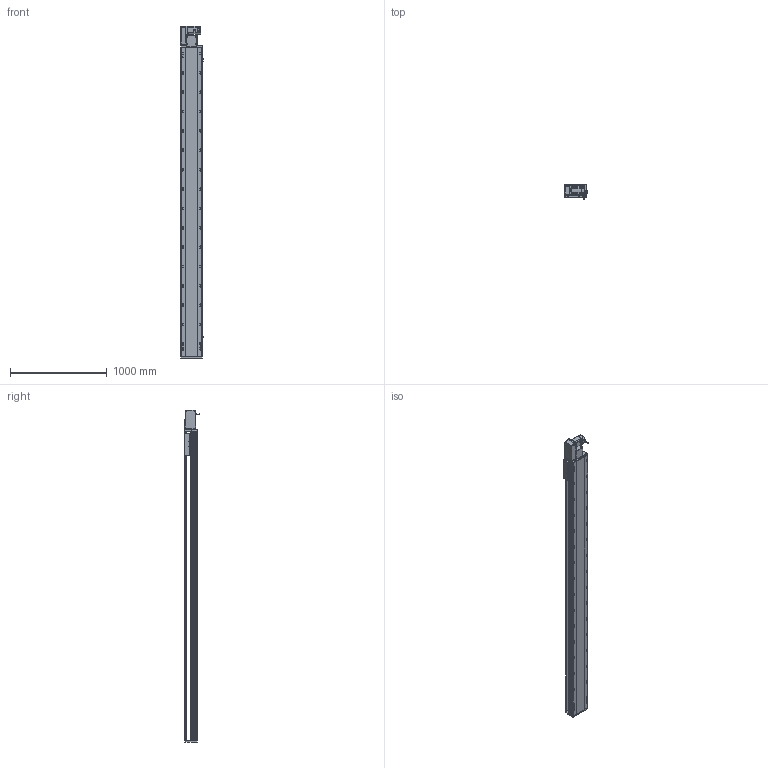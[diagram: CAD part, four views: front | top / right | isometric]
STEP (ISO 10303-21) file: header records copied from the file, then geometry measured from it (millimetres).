
FILE_DESCRIPTION (( 'STEP AP214' ), '1' );
FILE_NAME ('RTB22S-XX-2850-L-M75-C4.STEP', '2025-12-12T03:29:45', ( '' ), ( '' ), 'SwSTEP 2.0', 'SolidWorks 2018', '' );
FILE_SCHEMA (( 'AUTOMOTIVE_DESIGN' ));
Length unit declared in the file: millimetre
Products named in the file (14): RTB22S-GY-008-M75--萇儂啣^RTB22S-L-々湍釱蚾饜_RTB22S-XX-XX-L-M75-C4; RTB22S-GY-018P^RTB22S-L-々湍釱蚾饜_RTB22S-XX-XX-L-M75-C4; RTB22S-GY-001耜裔^RTB22S-XX-XX-L-M75-C4; RTB22S-GY-017P^RTB22S-L-々湍釱蚾饜_RTB22S-XX-XX-L-M75-C4; RTB22S-L-004賑釱^RTB22S-XX-XX-L-M75-C4; RTB22S-GY-007奻裔^RTB22S-XX-XX-L-M75-C4; RTH22-GY-013外置感应片^RTB22S-XX-XX-L-M75-C4; RTB22S-XX-2850-L-M75-C4; RTB22S-L-011菁釱^RTB22S-XX-XX-L-M75-C4; OMRON EE-SX672 传感器^RTB22S-XX-XX-L-M75-C4; RTB22S-GY-014--々湍釱^RTB22S-L-々湍釱蚾饜_RTB22S-XX-XX-L-M75-C4; RTB22S-L-々湍釱蚾饜^RTB22S-XX-XX-L-M75-C4; RTB22S-GY-005P^RTB22S-L-々湍釱蚾饜_RTB22S-XX-XX-L-M75-C4; 750W萇儂^RTB22S-XX-XX-L-M75-C4
Assembly tree (16 placements, depth 3):
  RTB22S-XX-2850-L-M75-C4
    RTB22S-L-011菁釱^RTB22S-XX-XX-L-M75-C4
    750W萇儂^RTB22S-XX-XX-L-M75-C4
    RTB22S-L-004賑釱^RTB22S-XX-XX-L-M75-C4
    OMRON EE-SX672 传感器^RTB22S-XX-XX-L-M75-C4  x3
    RTH22-GY-013外置感应片^RTB22S-XX-XX-L-M75-C4
    RTB22S-GY-007奻裔^RTB22S-XX-XX-L-M75-C4
    RTB22S-GY-001耜裔^RTB22S-XX-XX-L-M75-C4
    RTB22S-L-々湍釱蚾饜^RTB22S-XX-XX-L-M75-C4
      RTB22S-GY-014--々湍釱^RTB22S-L-々湍釱蚾饜_RTB22S-XX-XX-L-M75-C4
      RTB22S-GY-017P^RTB22S-L-々湍釱蚾饜_RTB22S-XX-XX-L-M75-C4  x2
      RTB22S-GY-005P^RTB22S-L-々湍釱蚾饜_RTB22S-XX-XX-L-M75-C4
      RTB22S-GY-008-M75--萇儂啣^RTB22S-L-々湍釱蚾饜_RTB22S-XX-XX-L-M75-C4
      RTB22S-GY-018P^RTB22S-L-々湍釱蚾饜_RTB22S-XX-XX-L-M75-C4
Bounding box: 238.5 x 162.7 x 3429 mm (x, y, z)
Volume: 42837520.3 mm3; surface area: 4372850.5 mm2
Topology: 15 solids, 15 shells, 2145 faces, 5836 edges, 3722 vertices
Faces by surface type: plane 933, cylinder 730, bspline 296, cone 174, sphere 8, torus 4
Entity records: 58690 total; most frequent: CARTESIAN_POINT 16504, ORIENTED_EDGE 8388, DIRECTION 8228, EDGE_CURVE 4194, AXIS2_PLACEMENT_3D 2962, VERTEX_POINT 2726, LINE 2304, VECTOR 2304
